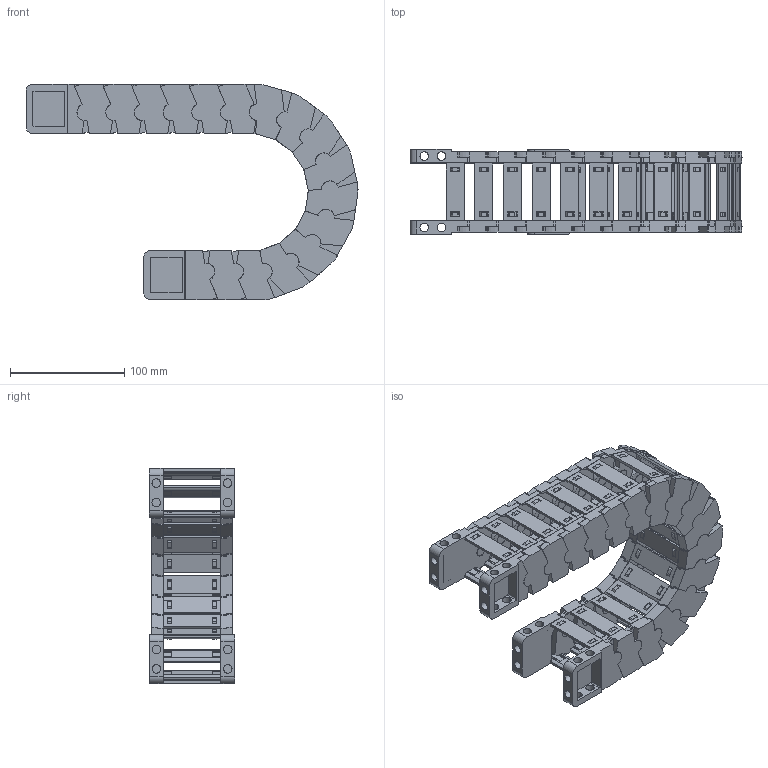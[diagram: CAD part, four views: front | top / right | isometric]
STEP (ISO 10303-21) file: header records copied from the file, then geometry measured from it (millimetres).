
FILE_DESCRIPTION((''),'2;1');
FILE_NAME('JY-35X50-R75_ASM','2022-05-06T16:07:45',('admin'),(''),'CREO PARAMETRIC BY PTC INC, 2021164','CREO PARAMETRIC BY PTC INC, 2021164','');
FILE_SCHEMA(('CONFIG_CONTROL_DESIGN','GEOMETRIC_VALIDATION_PROPERTIES_MIM'));
Length unit declared in the file: millimetre
Products named in the file (11): 35XL-L; 25-35XL-YP; 35XL-R; ASM0001_ASM; 35-LTT-A-L; 35-LTT-A-R; 35XL-LTT-A_ASM; 35-LTT-B-L; 35-LTT-B-R; 35XL-LTT-B_ASM; JY-35X50-R75_ASM
Assembly tree (30 placements, depth 3):
  JY-35X50-R75_ASM
    ASM0001_ASM  x16
      35XL-L
      25-35XL-YP
      35XL-R
    35XL-LTT-A_ASM
      35-LTT-A-L
      25-35XL-YP  x2
      35-LTT-A-R
    35XL-LTT-B_ASM
      35-LTT-B-L
      25-35XL-YP  x2
      35-LTT-B-R
Bounding box: 290.74 x 74.6 x 188.76 mm (x, y, z)
Volume: 467168.5 mm3; surface area: 286229.6 mm2
Topology: 72 solids, 72 shells, 3748 faces, 10958 edges, 7324 vertices
Faces by surface type: plane 2844, cylinder 900, bspline 4
Entity records: 20826 total; most frequent: CARTESIAN_POINT 3237, ORIENTED_EDGE 2876, DIRECTION 2858, EDGE_CURVE 1438, VECTOR 1056, LINE 1056, VERTEX_POINT 964, AXIS2_PLACEMENT_3D 901
